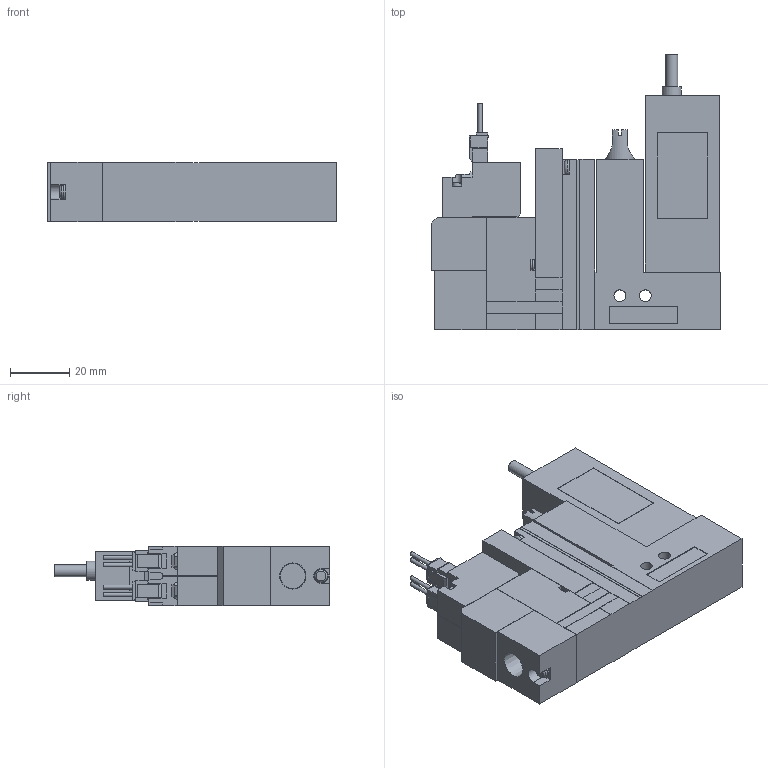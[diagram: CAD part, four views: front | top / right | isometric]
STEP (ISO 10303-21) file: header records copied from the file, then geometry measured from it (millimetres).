
FILE_DESCRIPTION(('STEP AP203'),'1');
FILE_NAME('VG_VGPLC5BLR.stp','2025-02-17T00:19:45',(' '),(' '),'Spatial InterOp 3D',' ',' ');
FILE_SCHEMA(('CONFIG_CONTROL_DESIGN'));
Length unit declared in the file: millimetre
Products named in the file (5): BMC22S※※※※VG_VGPLC5BLR; Solenoid valve B; Pressure sensor VGLC; Unit LC; Base SR10R
Assembly tree (4 placements, depth 2):
  BMC22S※※※※VG_VGPLC5BLR
    Solenoid valve B
    Pressure sensor VGLC
    Unit LC
    Base SR10R
Bounding box: 97.6 x 93 x 20 mm (x, y, z)
Volume: 111500.9 mm3; surface area: 28243.8 mm2
Topology: 4 solids, 4 shells, 394 faces, 1045 edges, 689 vertices
Faces by surface type: plane 338, cylinder 45, cone 6, torus 5
Full cylindrical faces by diameter (mm): 1.4 x4, 2.5 x3, 3 x4, 3.5 x4, 3.6 x1, 4 x6, 4.134 x1, 6 x1, 6.5 x1
Entity records: 12160 total; most frequent: CARTESIAN_POINT 2222, ORIENTED_EDGE 1992, DIRECTION 1920, EDGE_CURVE 996, LINE 858, VECTOR 858, VERTEX_POINT 677, AXIS2_PLACEMENT_3D 531
